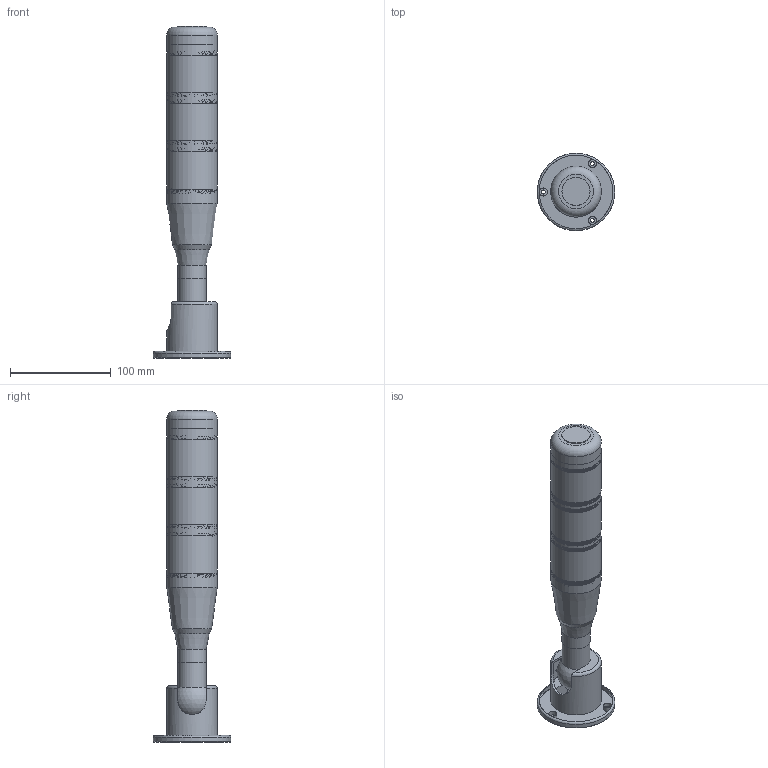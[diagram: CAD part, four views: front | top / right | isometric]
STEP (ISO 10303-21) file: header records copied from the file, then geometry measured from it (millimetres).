
FILE_DESCRIPTION(/* description */ (''),/* implementation_level */ '2;1');
FILE_NAME(/* name */ 'OLE2-301 常亮.stp',/* time_stamp */ '2022-12-13T17:25:20+08:00',/* author */ (''),/* organization */ (''),/* preprocessor_version */ 'ST-DEVELOPER v16.7',/* originating_system */ 'SIEMENS PLM Software NX 12.0',/* authorisation */ '');
FILE_SCHEMA (('AUTOMOTIVE_DESIGN { 1 0 10303 214 3 1 1 1 }'));
Products named in the file (1): Admi15EC76A1t4fs
Bounding box: 77 x 77 x 329.5 mm (x, y, z)
Volume: 168151.3 mm3; surface area: 157973.5 mm2
Topology: 13 solids, 15 shells, 1600 faces, 3866 edges, 2577 vertices
Faces by surface type: plane 1423, cylinder 103, bspline 51, cone 17, torus 4, sphere 2
Full cylindrical faces by diameter (mm): 4 x3, 8 x3, 17.5 x1, 18 x2, 21.5 x1, 22 x1, 23.5 x1, 24.3 x10, 28 x3, 32 x3, 34 x1, 38 x1, 42 x1, 43 x3, 44.2 x3, 45 x1, 46 x6, 46.3 x5, 47 x1, 48 x1, 50 x5, 50.3 x4, 77 x1
Entity records: 66723 total; most frequent: CARTESIAN_POINT 31721, ORIENTED_EDGE 7354, DIRECTION 6145, EDGE_CURVE 3677, LINE 2773, VECTOR 2773, VERTEX_POINT 2479, EDGE_LOOP 1952
